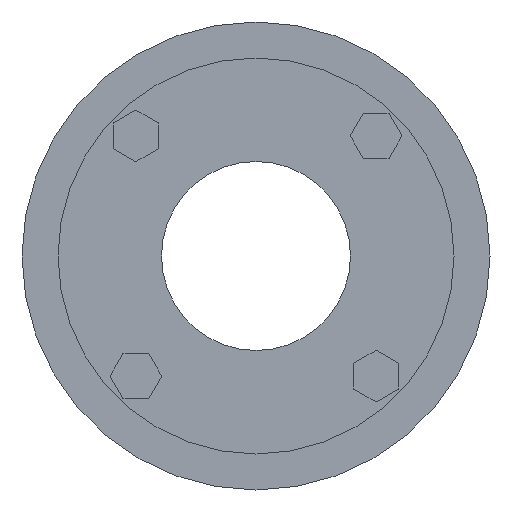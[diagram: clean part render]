
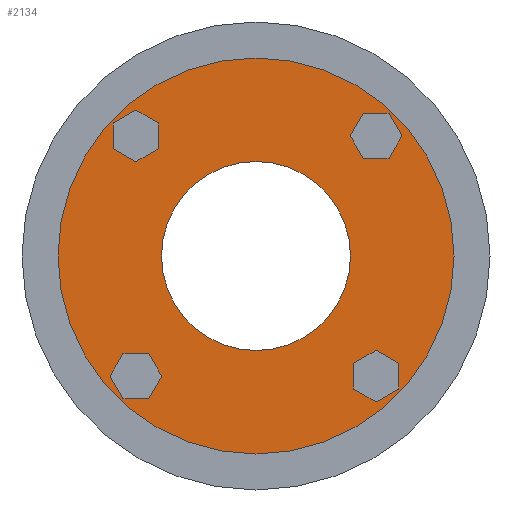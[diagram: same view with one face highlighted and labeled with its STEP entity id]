
A CAD part, left-side view. The second image highlights one B-rep face of the part: STEP entity #2134.
In plain terms, the highlighted planar face has unit normal (-1, 0, 0).
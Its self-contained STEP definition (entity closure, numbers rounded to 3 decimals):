
#311 = CARTESIAN_POINT ( 'NONE',  ( 0., 0., -21. ) ) ;
#322 = CARTESIAN_POINT ( 'NONE',  ( 0., 0., 21. ) ) ;
#323 = DIRECTION ( 'NONE',  ( 0., 0., 1. ) ) ;
#324 = DIRECTION ( 'NONE',  ( -1., 0., 0. ) ) ;
#325 = CARTESIAN_POINT ( 'NONE',  ( 0., 0., 0. ) ) ;
#326 = AXIS2_PLACEMENT_3D ( 'NONE', #325, #324, #323 ) ;
#330 = CIRCLE ( 'NONE', #326, 21. ) ;
#503 = DIRECTION ( 'NONE',  ( 0., 0., 1. ) ) ;
#504 = DIRECTION ( 'NONE',  ( -1., 0., 0. ) ) ;
#505 = CARTESIAN_POINT ( 'NONE',  ( 0., 0., 0. ) ) ;
#506 = AXIS2_PLACEMENT_3D ( 'NONE', #505, #504, #503 ) ;
#507 = CIRCLE ( 'NONE', #506, 21. ) ;
#514 = DIRECTION ( 'NONE',  ( 0., 0., -1. ) ) ;
#515 = DIRECTION ( 'NONE',  ( 1., 0., 0. ) ) ;
#516 = CARTESIAN_POINT ( 'NONE',  ( 0., 0., 0. ) ) ;
#517 = AXIS2_PLACEMENT_3D ( 'NONE', #516, #515, #514 ) ;
#518 = PLANE ( 'NONE',  #517 ) ;
#553 = FACE_OUTER_BOUND ( 'NONE', #2236, .T. ) ;
#554 = FACE_BOUND ( 'NONE', #2136, .T. ) ;
#596 = DIRECTION ( 'NONE',  ( 0., 0., 1. ) ) ;
#597 = DIRECTION ( 'NONE',  ( -1., 0., 0. ) ) ;
#598 = AXIS2_PLACEMENT_3D ( 'NONE', #604, #597, #596 ) ;
#599 = CIRCLE ( 'NONE', #598, 44. ) ;
#604 = CARTESIAN_POINT ( 'NONE',  ( 0., 0., 0. ) ) ;
#628 = DIRECTION ( 'NONE',  ( 0., 0., 1. ) ) ;
#629 = DIRECTION ( 'NONE',  ( -1., 0., 0. ) ) ;
#630 = CARTESIAN_POINT ( 'NONE',  ( 0., 0., 0. ) ) ;
#631 = AXIS2_PLACEMENT_3D ( 'NONE', #630, #629, #628 ) ;
#632 = CIRCLE ( 'NONE', #631, 44. ) ;
#674 = CARTESIAN_POINT ( 'NONE',  ( 0., 0., 44. ) ) ;
#675 = CARTESIAN_POINT ( 'NONE',  ( 0., 0., -44. ) ) ;
#2068 = VERTEX_POINT ( 'NONE', #311 ) ;
#2070 = EDGE_CURVE ( 'NONE', #2068, #2071, #330, .T. ) ;
#2071 = VERTEX_POINT ( 'NONE', #322 ) ;
#2134 = ADVANCED_FACE ( 'NONE', ( #554, #553 ), #518, .F. ) ;
#2136 = EDGE_LOOP ( 'NONE', ( #2139, #2235 ) ) ;
#2139 = ORIENTED_EDGE ( 'NONE', *, *, #2140, .F. ) ;
#2140 = EDGE_CURVE ( 'NONE', #2071, #2068, #507, .T. ) ;
#2235 = ORIENTED_EDGE ( 'NONE', *, *, #2070, .F. ) ;
#2236 = EDGE_LOOP ( 'NONE', ( #2238, #2239 ) ) ;
#2238 = ORIENTED_EDGE ( 'NONE', *, *, #2367, .T. ) ;
#2239 = ORIENTED_EDGE ( 'NONE', *, *, #2241, .T. ) ;
#2241 = EDGE_CURVE ( 'NONE', #2406, #2407, #632, .T. ) ;
#2367 = EDGE_CURVE ( 'NONE', #2407, #2406, #599, .T. ) ;
#2406 = VERTEX_POINT ( 'NONE', #675 ) ;
#2407 = VERTEX_POINT ( 'NONE', #674 ) ;
